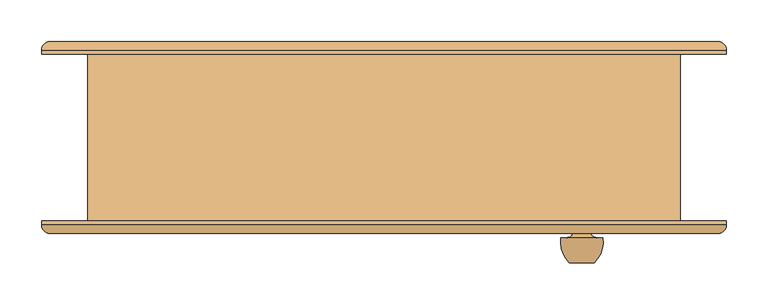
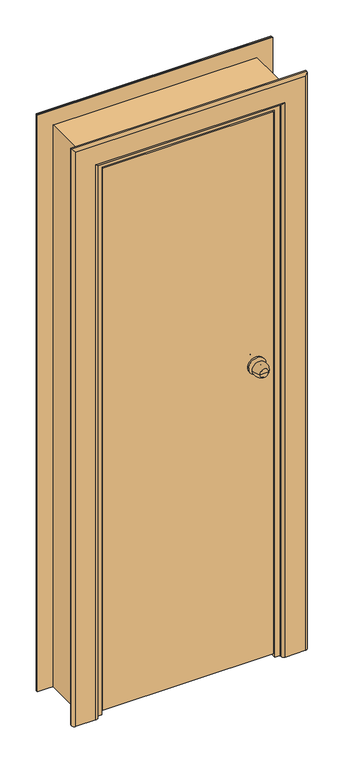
"""IFC4 building model written with IfcOpenShell, lengths in millimetres: door geometry, Внутренняя дверь 1-Навесная - 6629-88 : ДГ 21-7Л  ГОСТ 6629-88."""

from ifc_helpers import new_model, si_unit, point, frame, origin, place, context, project, spatial, polyline, circle_curve, ellipse_curve, trimmed, outline, extrude, faceted_brep, source, transform, mapped, element, save
from ifc_brep_helpers import plane_surface, cylinder_surface, revolved_surface, advanced_brep


def door_2809dd26(model_context):
    return source(origin(), model_context, "Body", "SolidModel", [
        advanced_brep(
        [(252.0, -150.0, 1100.0), (222.0, -150.0, 1100.0), (237.0, -150.0, 1100.0), (262.0, -120.0, 1100.0), (212.0, -120.0, 1100.0), (255.0, -120.0, 1100.0), (219.0, -120.0, 1100.0), (247.0, -112.0, 1100.0), (227.0, -112.0, 1100.0), (247.0, -106.0, 1100.0), (227.0, -106.0, 1100.0), (207.0, -106.0, 1100.0), (267.0, -106.0, 1100.0), (207.0, -100.0, 1100.0), (267.0, -100.0, 1100.0)],
        [
            (0, 1, circle_curve(frame((237.0, -150.0, 1100.0), z_axis=(0.0, -1.0, 0.0), x_axis=(-1.0, 0.0, 0.0)), 15.0)),
            (1, 2),
            (2, 0),
            (1, 0, circle_curve(frame((237.0, -150.0, 1100.0), z_axis=(0.0, -1.0, 0.0), x_axis=(-1.0, 0.0, 0.0)), 15.0)),
            (0, 3, circle_curve(frame((227.3773735, -125.1257912, 1100.0), z_axis=(0.0, 0.0, 1.0), x_axis=(-1.0, 0.0, 0.0)), 35.0)),
            (3, 4, circle_curve(frame((237.0, -120.0, 1100.0), z_axis=(0.0, -1.0, 0.0), x_axis=(-1.0, 0.0, 0.0)), 25.0)),
            (4, 1, circle_curve(frame((246.6226265, -125.1257912, 1100.0), z_axis=(0.0, 0.0, 1.0), x_axis=(1.0, 0.0, 0.0)), 35.0)),
            (4, 3, circle_curve(frame((237.0, -120.0, 1100.0), z_axis=(0.0, -1.0, 0.0), x_axis=(-1.0, 0.0, 0.0)), 25.0)),
            (3, 5),
            (5, 6, circle_curve(frame((237.0, -120.0, 1100.0), z_axis=(0.0, -1.0, 0.0), x_axis=(-1.0, 0.0, 0.0)), 18.0)),
            (6, 4),
            (6, 5, circle_curve(frame((237.0, -120.0, 1100.0), z_axis=(0.0, -1.0, 0.0), x_axis=(-1.0, 0.0, 0.0)), 18.0)),
            (5, 7, circle_curve(frame((255.0, -112.0, 1100.0), z_axis=(0.0, 0.0, -1.0), x_axis=(-1.0, 0.0, 0.0)), 8.0)),
            (7, 8, circle_curve(frame((237.0, -112.0, 1100.0), z_axis=(0.0, -1.0, 0.0), x_axis=(-1.0, 0.0, 0.0)), 10.0)),
            (8, 6, circle_curve(frame((219.0, -112.0, 1100.0), z_axis=(0.0, 0.0, -1.0), x_axis=(1.0, 0.0, 0.0)), 8.0)),
            (8, 7, circle_curve(frame((237.0, -112.0, 1100.0), z_axis=(0.0, -1.0, 0.0), x_axis=(-1.0, 0.0, 0.0)), 10.0)),
            (7, 9),
            (9, 10, circle_curve(frame((237.0, -106.0, 1100.0), z_axis=(0.0, -1.0, 0.0), x_axis=(-1.0, 0.0, 0.0)), 10.0)),
            (10, 8),
            (10, 9, circle_curve(frame((237.0, -106.0, 1100.0), z_axis=(0.0, -1.0, 0.0), x_axis=(-1.0, 0.0, 0.0)), 10.0)),
            (11, 12, circle_curve(frame((237.0, -106.0, 1100.0), z_axis=(0.0, -1.0, 0.0), x_axis=(1.0, 0.0, 0.0)), 30.0)),
            (12, 11, circle_curve(frame((237.0, -106.0, 1100.0), z_axis=(0.0, -1.0, 0.0), x_axis=(1.0, 0.0, 0.0)), 30.0)),
            (13, 14, circle_curve(frame((237.0, -100.0, 1100.0), z_axis=(0.0, 1.0, 0.0), x_axis=(1.0, 0.0, 0.0)), 30.0)),
            (14, 13, circle_curve(frame((237.0, -100.0, 1100.0), z_axis=(0.0, 1.0, 0.0), x_axis=(1.0, 0.0, 0.0)), 30.0)),
            (11, 13),
            (14, 12),
        ],
        [
            plane_surface(frame((237.0, -150.0, 1100.0), z_axis=(0.0, -1.0, 0.0), x_axis=(-1.0, 0.0, 0.0))),
            revolved_surface(trimmed(ellipse_curve(frame((246.6226265, -125.1257912, 1100.0), z_axis=(0.0, 0.0, -1.0), x_axis=(1.0, 0.0, 0.0)), 35.0, 35.0), [point((222.0, -150.0, 1100.0))], [point((212.0, -120.0, 1100.0))], True, "CARTESIAN"), (237.0, -180.0, 1100.0), (0.0, 1.0, 0.0)),
            plane_surface(frame((237.0, -120.0, 1100.0), z_axis=(0.0, 1.0, 0.0), x_axis=(-1.0, 0.0, 0.0))),
            revolved_surface(trimmed(ellipse_curve(frame((219.0, -112.0, 1100.0), z_axis=(0.0, 0.0, 1.0), x_axis=(1.0, 0.0, 0.0)), 8.0, 8.0), [point((219.0, -120.0, 1100.0))], [point((227.0, -112.0, 1100.0))], True, "CARTESIAN"), (237.0, -180.0, 1100.0), (0.0, 1.0, 0.0)),
            cylinder_surface(frame((237.0, -180.0, 1100.0), z_axis=(0.0, 1.0, 0.0), x_axis=(-1.0, 0.0, 0.0)), 10.0),
            plane_surface(frame((267.0, -106.0, 1100.0), z_axis=(0.0, -1.0, 0.0), x_axis=(0.0, 0.0, 1.0))),
            plane_surface(frame((267.0, -100.0, 1100.0), z_axis=(0.0, 1.0, 0.0), x_axis=(0.0, 0.0, -1.0))),
            cylinder_surface(frame((237.0, -100.0, 1100.0), z_axis=(0.0, -1.0, 0.0), x_axis=(1.0, 0.0, 0.0)), 30.0),
        ],
        [
            (0, [[1, 2, 3]]),
            (0, [[-2, 4, -3]]),
            (1, [[-1, 5, 6, 7]]),
            (1, [[-4, -7, 8, -5]]),
            (2, [[-6, 9, 10, 11]]),
            (2, [[-8, -11, 12, -9]]),
            (3, [[-10, 13, 14, 15]]),
            (3, [[-12, -15, 16, -13]]),
            (4, [[-14, 17, 18, 19]]),
            (4, [[-16, -19, 20, -17]]),
            (5, [[21, 22], [-18, -20]]),
            (6, [[23, 24]]),
            (7, [[-21, 25, -24, 26]]),
            (7, [[-22, -26, -23, -25]]),
        ],
    ),
        advanced_brep(
        [(222.0, -13.0, 1100.0), (252.0, -13.0, 1100.0), (237.0, -13.0, 1100.0), (212.0, -43.0, 1100.0), (262.0, -43.0, 1100.0), (219.0, -43.0, 1100.0), (255.0, -43.0, 1100.0), (227.0, -51.0, 1100.0), (247.0, -51.0, 1100.0), (227.0, -57.0, 1100.0), (247.0, -57.0, 1100.0), (267.0, -57.0, 1100.0), (207.0, -57.0, 1100.0), (267.0, -63.0, 1100.0), (207.0, -63.0, 1100.0)],
        [
            (0, 1, circle_curve(frame((237.0, -13.0, 1100.0), z_axis=(0.0, 1.0, 0.0), x_axis=(1.0, 0.0, 0.0)), 15.0)),
            (1, 2),
            (2, 0),
            (1, 0, circle_curve(frame((237.0, -13.0, 1100.0), z_axis=(0.0, 1.0, 0.0), x_axis=(1.0, 0.0, 0.0)), 15.0)),
            (0, 3, circle_curve(frame((246.6226265, -37.8742088, 1100.0), z_axis=(0.0, 0.0, 1.0), x_axis=(1.0, 0.0, 0.0)), 35.0)),
            (3, 4, circle_curve(frame((237.0, -43.0, 1100.0), z_axis=(0.0, 1.0, 0.0), x_axis=(1.0, 0.0, 0.0)), 25.0)),
            (4, 1, circle_curve(frame((227.3773735, -37.8742088, 1100.0), z_axis=(0.0, 0.0, 1.0), x_axis=(-1.0, 0.0, 0.0)), 35.0)),
            (4, 3, circle_curve(frame((237.0, -43.0, 1100.0), z_axis=(0.0, 1.0, 0.0), x_axis=(1.0, 0.0, 0.0)), 25.0)),
            (3, 5),
            (5, 6, circle_curve(frame((237.0, -43.0, 1100.0), z_axis=(0.0, 1.0, 0.0), x_axis=(1.0, 0.0, 0.0)), 18.0)),
            (6, 4),
            (6, 5, circle_curve(frame((237.0, -43.0, 1100.0), z_axis=(0.0, 1.0, 0.0), x_axis=(1.0, 0.0, 0.0)), 18.0)),
            (5, 7, circle_curve(frame((219.0, -51.0, 1100.0), z_axis=(0.0, 0.0, -1.0), x_axis=(1.0, 0.0, 0.0)), 8.0)),
            (7, 8, circle_curve(frame((237.0, -51.0, 1100.0), z_axis=(0.0, 1.0, 0.0), x_axis=(1.0, 0.0, 0.0)), 10.0)),
            (8, 6, circle_curve(frame((255.0, -51.0, 1100.0), z_axis=(0.0, 0.0, -1.0), x_axis=(-1.0, 0.0, 0.0)), 8.0)),
            (8, 7, circle_curve(frame((237.0, -51.0, 1100.0), z_axis=(0.0, 1.0, 0.0), x_axis=(1.0, 0.0, 0.0)), 10.0)),
            (7, 9),
            (9, 10, circle_curve(frame((237.0, -57.0, 1100.0), z_axis=(0.0, 1.0, 0.0), x_axis=(1.0, 0.0, 0.0)), 10.0)),
            (10, 8),
            (10, 9, circle_curve(frame((237.0, -57.0, 1100.0), z_axis=(0.0, 1.0, 0.0), x_axis=(1.0, 0.0, 0.0)), 10.0)),
            (11, 12, circle_curve(frame((237.0, -57.0, 1100.0), z_axis=(0.0, 1.0, 0.0), x_axis=(-1.0, 0.0, 0.0)), 30.0)),
            (12, 11, circle_curve(frame((237.0, -57.0, 1100.0), z_axis=(0.0, 1.0, 0.0), x_axis=(-1.0, 0.0, 0.0)), 30.0)),
            (13, 14, circle_curve(frame((237.0, -63.0, 1100.0), z_axis=(0.0, -1.0, 0.0), x_axis=(-1.0, 0.0, 0.0)), 30.0)),
            (14, 13, circle_curve(frame((237.0, -63.0, 1100.0), z_axis=(0.0, -1.0, 0.0), x_axis=(-1.0, 0.0, 0.0)), 30.0)),
            (11, 13),
            (14, 12),
        ],
        [
            plane_surface(frame((237.0, -13.0, 1100.0), z_axis=(0.0, 1.0, 0.0), x_axis=(1.0, 0.0, 0.0))),
            revolved_surface(trimmed(ellipse_curve(frame((227.3773735, -37.8742088, 1100.0), z_axis=(0.0, 0.0, -1.0), x_axis=(-1.0, 0.0, 0.0)), 35.0, 35.0), [point((252.0, -13.0, 1100.0))], [point((262.0, -43.0, 1100.0))], True, "CARTESIAN"), (237.0, 17.0, 1100.0), (0.0, -1.0, 0.0)),
            plane_surface(frame((237.0, -43.0, 1100.0), z_axis=(0.0, -1.0, 0.0), x_axis=(1.0, 0.0, 0.0))),
            revolved_surface(trimmed(ellipse_curve(frame((255.0, -51.0, 1100.0), z_axis=(0.0, 0.0, 1.0), x_axis=(-1.0, 0.0, 0.0)), 8.0, 8.0), [point((255.0, -43.0, 1100.0))], [point((247.0, -51.0, 1100.0))], True, "CARTESIAN"), (237.0, 17.0, 1100.0), (0.0, -1.0, 0.0)),
            cylinder_surface(frame((237.0, 17.0, 1100.0), z_axis=(0.0, -1.0, 0.0), x_axis=(1.0, 0.0, 0.0)), 10.0),
            plane_surface(frame((207.0, -57.0, 1100.0), z_axis=(0.0, 1.0, 0.0), x_axis=(0.0, 0.0, 1.0))),
            plane_surface(frame((207.0, -63.0, 1100.0), z_axis=(0.0, -1.0, 0.0), x_axis=(0.0, 0.0, -1.0))),
            cylinder_surface(frame((237.0, -63.0, 1100.0), z_axis=(0.0, 1.0, 0.0), x_axis=(-1.0, 0.0, 0.0)), 30.0),
        ],
        [
            (0, [[1, 2, 3]]),
            (0, [[-2, 4, -3]]),
            (1, [[-1, 5, 6, 7]]),
            (1, [[-4, -7, 8, -5]]),
            (2, [[-6, 9, 10, 11]]),
            (2, [[-8, -11, 12, -9]]),
            (3, [[-10, 13, 14, 15]]),
            (3, [[-12, -15, 16, -13]]),
            (4, [[-14, 17, 18, 19]]),
            (4, [[-16, -19, 20, -17]]),
            (5, [[21, 22], [-18, -20]]),
            (6, [[23, 24]]),
            (7, [[-21, 25, -24, 26]]),
            (7, [[-22, -26, -23, -25]]),
        ],
    ),
        extrude(outline(polyline([(0.0, 320.0), (0.0, 335.0), (2050.0, 335.0), (2050.0, -335.0), (0.0, -335.0), (0.0, -320.0), (2035.0, -320.0), (2035.0, 320.0), (0.0, 320.0)])), frame((0.0, -26.0, 0.0), z_axis=(0.0, 1.0, 0.0), x_axis=(0.0, 0.0, 1.0)), (0.0, 0.0, 1.0), 126.0),
        advanced_brep(
        [(-410.0, -100.0, 0.0), (-320.0, -100.0, 0.0), (-320.0, -105.0, 0.0), (-330.0, -115.0, 0.0), (-400.0, -115.0, 0.0), (-410.0, -105.0, 0.0), (-410.0, -100.0, 2125.0), (410.0, -100.0, 2125.0), (410.0, -100.0, 0.0), (320.0, -100.0, 0.0), (320.0, -100.0, 2035.0), (-320.0, -100.0, 2035.0), (-320.0, -105.0, 2035.0), (-330.0, -115.0, 2045.0), (330.0, -115.0, 2045.0), (330.0, -115.0, 0.0), (400.0, -115.0, 0.0), (400.0, -115.0, 2115.0), (-400.0, -115.0, 2115.0), (-410.0, -105.0, 2125.0), (410.0, -105.0, 2125.0), (410.0, -105.0, 0.0), (320.0, -105.0, 0.0), (320.0, -105.0, 2035.0)],
        [
            (0, 1),
            (1, 2),
            (2, 3, circle_curve(frame((-330.0, -105.0, 0.0), z_axis=(0.0, 0.0, -1.0), x_axis=(-1.0, 0.0, 0.0)), 10.0)),
            (3, 4),
            (4, 5, circle_curve(frame((-400.0, -105.0, 0.0), z_axis=(0.0, 0.0, -1.0), x_axis=(-1.0, 0.0, 0.0)), 10.0)),
            (5, 0),
            (0, 6),
            (6, 7),
            (7, 8),
            (8, 9),
            (9, 10),
            (10, 11),
            (11, 1),
            (11, 12),
            (12, 2),
            (12, 13, ellipse_curve(frame((-330.0, -105.0, 2045.0), z_axis=(-0.7071067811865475, 0.0, -0.7071067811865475), x_axis=(0.7071067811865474, 0.0, -0.7071067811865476)), 14.1421356, 10.0)),
            (13, 3),
            (13, 14),
            (14, 15),
            (15, 16),
            (16, 17),
            (17, 18),
            (18, 4),
            (18, 19, ellipse_curve(frame((-400.0, -105.0, 2115.0), z_axis=(-0.7071067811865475, 0.0, -0.7071067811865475), x_axis=(0.7071067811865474, 0.0, -0.7071067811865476)), 14.1421356, 10.0)),
            (19, 5),
            (19, 6),
            (7, 20),
            (20, 21),
            (21, 8),
            (21, 16, circle_curve(frame((400.0, -105.0, 0.0), z_axis=(0.0, 0.0, -1.0), x_axis=(1.0, 0.0, 0.0)), 10.0)),
            (15, 22, circle_curve(frame((330.0, -105.0, 0.0), z_axis=(0.0, 0.0, -1.0), x_axis=(1.0, 0.0, 0.0)), 10.0)),
            (22, 9),
            (23, 10),
            (22, 23),
            (14, 23, ellipse_curve(frame((330.0, -105.0, 2045.0), z_axis=(0.7071067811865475, 0.0, -0.7071067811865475), x_axis=(0.7071067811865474, 0.0, 0.7071067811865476)), 14.1421356, 10.0)),
            (20, 17, ellipse_curve(frame((400.0, -105.0, 2115.0), z_axis=(0.7071067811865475, 0.0, -0.7071067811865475), x_axis=(0.7071067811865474, 0.0, 0.7071067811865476)), 14.1421356, 10.0)),
            (23, 12),
            (20, 19),
        ],
        [
            plane_surface(frame((-355.0, -100.0, 0.0), z_axis=(0.0, 0.0, -1.0), x_axis=(0.0, 1.0, 0.0))),
            plane_surface(frame((-410.0, -100.0, 0.0), z_axis=(0.0, 1.0, 0.0), x_axis=(0.0, 0.0, 1.0))),
            plane_surface(frame((-320.0, -100.0, 0.0), z_axis=(1.0, 0.0, 0.0), x_axis=(0.0, 0.0, 1.0))),
            cylinder_surface(frame((-330.0, -105.0, 0.0), z_axis=(0.0, 0.0, -1.0), x_axis=(-1.0, 0.0, 0.0)), 10.0),
            plane_surface(frame((-330.0, -115.0, 0.0), z_axis=(0.0, -1.0, 0.0), x_axis=(0.0, 0.0, 1.0))),
            cylinder_surface(frame((-400.0, -105.0, 0.0), z_axis=(0.0, 0.0, -1.0), x_axis=(-1.0, 0.0, 0.0)), 10.0),
            plane_surface(frame((-410.0, -105.0, 0.0), z_axis=(-1.0, 0.0, 0.0), x_axis=(0.0, 0.0, 1.0))),
            plane_surface(frame((410.0, -105.0, 2125.0), z_axis=(1.0, 0.0, 0.0), x_axis=(0.0, 0.0, -1.0))),
            plane_surface(frame((355.0, -100.0, 0.0), z_axis=(0.0, 0.0, -1.0), x_axis=(0.0, 1.0, 0.0))),
            plane_surface(frame((320.0, -100.0, 2035.0), z_axis=(-1.0, 0.0, 0.0), x_axis=(0.0, 0.0, -1.0))),
            cylinder_surface(frame((330.0, -105.0, 2070.0), z_axis=(0.0, 0.0, 1.0), x_axis=(1.0, 0.0, 0.0)), 10.0),
            cylinder_surface(frame((400.0, -105.0, 2070.0), z_axis=(0.0, 0.0, 1.0), x_axis=(1.0, 0.0, 0.0)), 10.0),
            plane_surface(frame((-320.0, -100.0, 2035.0), z_axis=(0.0, 0.0, -1.0), x_axis=(1.0, 0.0, 0.0))),
            cylinder_surface(frame((-355.0, -105.0, 2045.0), z_axis=(-1.0, 0.0, 0.0), x_axis=(0.0, 0.0, 1.0)), 10.0),
            cylinder_surface(frame((-355.0, -105.0, 2115.0), z_axis=(-1.0, 0.0, 0.0), x_axis=(0.0, 0.0, 1.0)), 10.0),
            plane_surface(frame((-410.0, -105.0, 2125.0), z_axis=(0.0, 0.0, 1.0), x_axis=(1.0, 0.0, 0.0))),
        ],
        [
            (0, [[1, 2, 3, 4, 5, 6]]),
            (1, [[-1, 7, 8, 9, 10, 11, 12, 13]]),
            (2, [[-2, -13, 14, 15]]),
            (3, [[-3, -15, 16, 17]]),
            (4, [[-4, -17, 18, 19, 20, 21, 22, 23]]),
            (5, [[-5, -23, 24, 25]]),
            (6, [[-6, -25, 26, -7]]),
            (7, [[27, 28, 29, -9]]),
            (8, [[-29, 30, -20, 31, 32, -10]]),
            (9, [[33, -11, -32, 34]]),
            (10, [[35, -34, -31, -19]]),
            (11, [[36, -21, -30, -28]]),
            (12, [[-14, -12, -33, 37]]),
            (13, [[-16, -37, -35, -18]]),
            (14, [[-24, -22, -36, 38]]),
            (15, [[-26, -38, -27, -8]]),
        ],
    ),
        advanced_brep(
        [(410.0, 100.0, 0.0), (320.0, 100.0, 0.0), (320.0, 105.0, 0.0), (330.0, 115.0, 0.0), (400.0, 115.0, 0.0), (410.0, 105.0, 0.0), (410.0, 100.0, 2125.0), (-410.0, 100.0, 2125.0), (-410.0, 100.0, 0.0), (-320.0, 100.0, 0.0), (-320.0, 100.0, 2035.0), (320.0, 100.0, 2035.0), (320.0, 105.0, 2035.0), (330.0, 115.0, 2045.0), (-330.0, 115.0, 2045.0), (-330.0, 115.0, 0.0), (-400.0, 115.0, 0.0), (-400.0, 115.0, 2115.0), (400.0, 115.0, 2115.0), (410.0, 105.0, 2125.0), (-410.0, 105.0, 2125.0), (-410.0, 105.0, 0.0), (-320.0, 105.0, 0.0), (-320.0, 105.0, 2035.0)],
        [
            (0, 1),
            (1, 2),
            (2, 3, circle_curve(frame((330.0, 105.0, 0.0), z_axis=(0.0, 0.0, -1.0), x_axis=(1.0, 0.0, 0.0)), 10.0)),
            (3, 4),
            (4, 5, circle_curve(frame((400.0, 105.0, 0.0), z_axis=(0.0, 0.0, -1.0), x_axis=(1.0, 0.0, 0.0)), 10.0)),
            (5, 0),
            (0, 6),
            (6, 7),
            (7, 8),
            (8, 9),
            (9, 10),
            (10, 11),
            (11, 1),
            (11, 12),
            (12, 2),
            (12, 13, ellipse_curve(frame((330.0, 105.0, 2045.0), z_axis=(0.7071067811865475, 0.0, -0.7071067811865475), x_axis=(-0.7071067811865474, 0.0, -0.7071067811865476)), 14.1421356, 10.0)),
            (13, 3),
            (13, 14),
            (14, 15),
            (15, 16),
            (16, 17),
            (17, 18),
            (18, 4),
            (18, 19, ellipse_curve(frame((400.0, 105.0, 2115.0), z_axis=(0.7071067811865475, 0.0, -0.7071067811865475), x_axis=(-0.7071067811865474, 0.0, -0.7071067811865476)), 14.1421356, 10.0)),
            (19, 5),
            (19, 6),
            (7, 20),
            (20, 21),
            (21, 8),
            (21, 16, circle_curve(frame((-400.0, 105.0, 0.0), z_axis=(0.0, 0.0, -1.0), x_axis=(-1.0, 0.0, 0.0)), 10.0)),
            (15, 22, circle_curve(frame((-330.0, 105.0, 0.0), z_axis=(0.0, 0.0, -1.0), x_axis=(-1.0, 0.0, 0.0)), 10.0)),
            (22, 9),
            (23, 10),
            (22, 23),
            (14, 23, ellipse_curve(frame((-330.0, 105.0, 2045.0), z_axis=(-0.7071067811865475, 0.0, -0.7071067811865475), x_axis=(-0.7071067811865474, 0.0, 0.7071067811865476)), 14.1421356, 10.0)),
            (20, 17, ellipse_curve(frame((-400.0, 105.0, 2115.0), z_axis=(-0.7071067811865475, 0.0, -0.7071067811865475), x_axis=(-0.7071067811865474, 0.0, 0.7071067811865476)), 14.1421356, 10.0)),
            (23, 12),
            (20, 19),
        ],
        [
            plane_surface(frame((355.0, 100.0, 0.0), z_axis=(0.0, 0.0, -1.0), x_axis=(0.0, -1.0, 0.0))),
            plane_surface(frame((410.0, 100.0, 0.0), z_axis=(0.0, -1.0, 0.0), x_axis=(0.0, 0.0, 1.0))),
            plane_surface(frame((320.0, 100.0, 0.0), z_axis=(-1.0, 0.0, 0.0), x_axis=(0.0, 0.0, 1.0))),
            cylinder_surface(frame((330.0, 105.0, 0.0), z_axis=(0.0, 0.0, -1.0), x_axis=(1.0, 0.0, 0.0)), 10.0),
            plane_surface(frame((330.0, 115.0, 0.0), z_axis=(0.0, 1.0, 0.0), x_axis=(0.0, 0.0, 1.0))),
            cylinder_surface(frame((400.0, 105.0, 0.0), z_axis=(0.0, 0.0, -1.0), x_axis=(1.0, 0.0, 0.0)), 10.0),
            plane_surface(frame((410.0, 105.0, 0.0), z_axis=(1.0, 0.0, 0.0), x_axis=(0.0, 0.0, 1.0))),
            plane_surface(frame((-410.0, 105.0, 2125.0), z_axis=(-1.0, 0.0, 0.0), x_axis=(0.0, 0.0, -1.0))),
            plane_surface(frame((-355.0, 100.0, 0.0), z_axis=(0.0, 0.0, -1.0), x_axis=(0.0, -1.0, 0.0))),
            plane_surface(frame((-320.0, 100.0, 2035.0), z_axis=(1.0, 0.0, 0.0), x_axis=(0.0, 0.0, -1.0))),
            cylinder_surface(frame((-330.0, 105.0, 2070.0), z_axis=(0.0, 0.0, 1.0), x_axis=(-1.0, 0.0, 0.0)), 10.0),
            cylinder_surface(frame((-400.0, 105.0, 2070.0), z_axis=(0.0, 0.0, 1.0), x_axis=(-1.0, 0.0, 0.0)), 10.0),
            plane_surface(frame((320.0, 100.0, 2035.0), z_axis=(0.0, 0.0, -1.0), x_axis=(-1.0, 0.0, 0.0))),
            cylinder_surface(frame((355.0, 105.0, 2045.0), z_axis=(1.0, 0.0, 0.0), x_axis=(0.0, 0.0, 1.0)), 10.0),
            cylinder_surface(frame((355.0, 105.0, 2115.0), z_axis=(1.0, 0.0, 0.0), x_axis=(0.0, 0.0, 1.0)), 10.0),
            plane_surface(frame((410.0, 105.0, 2125.0), z_axis=(0.0, 0.0, 1.0), x_axis=(-1.0, 0.0, 0.0))),
        ],
        [
            (0, [[1, 2, 3, 4, 5, 6]]),
            (1, [[-1, 7, 8, 9, 10, 11, 12, 13]]),
            (2, [[-2, -13, 14, 15]]),
            (3, [[-3, -15, 16, 17]]),
            (4, [[-4, -17, 18, 19, 20, 21, 22, 23]]),
            (5, [[-5, -23, 24, 25]]),
            (6, [[-6, -25, 26, -7]]),
            (7, [[27, 28, 29, -9]]),
            (8, [[-29, 30, -20, 31, 32, -10]]),
            (9, [[33, -11, -32, 34]]),
            (10, [[35, -34, -31, -19]]),
            (11, [[36, -21, -30, -28]]),
            (12, [[-14, -12, -33, 37]]),
            (13, [[-16, -37, -35, -18]]),
            (14, [[-24, -22, -36, 38]]),
            (15, [[-26, -38, -27, -8]]),
        ],
    ),
        faceted_brep([(290.0, -26.0, 0.0), (335.0, -26.0, 0.0), (335.0, -100.0, 0.0), (302.0, -100.0, 0.0), (302.0, -58.0, 0.0), (290.0, -58.0, 0.0), (290.0, -26.0, 2005.0), (-290.0, -26.0, 2005.0), (-290.0, -26.0, 0.0), (-335.0, -26.0, 0.0), (-335.0, -26.0, 2050.0), (335.0, -26.0, 2050.0), (335.0, -100.0, 2050.0), (-335.0, -100.0, 2050.0), (-335.0, -100.0, 0.0), (-302.0, -100.0, 0.0), (-302.0, -100.0, 2017.0), (302.0, -100.0, 2017.0), (302.0, -58.0, 2017.0), (-302.0, -58.0, 2017.0), (-302.0, -58.0, 0.0), (-290.0, -58.0, 0.0), (-290.0, -58.0, 2005.0), (290.0, -58.0, 2005.0)], [[[0, 1, 2, 3, 4, 5]], [[1, 0, 6, 7, 8, 9, 10, 11]], [[2, 1, 11, 12]], [[3, 2, 12, 13, 14, 15, 16, 17]], [[4, 3, 17, 18]], [[5, 4, 18, 19, 20, 21, 22, 23]], [[0, 5, 23, 6]], [[7, 22, 21, 8]], [[8, 21, 20, 15, 14, 9]], [[13, 10, 9, 14]], [[19, 16, 15, 20]], [[12, 11, 10, 13]], [[18, 17, 16, 19]], [[6, 23, 22, 7]]]),
        extrude(outline(polyline([(0.0, 335.0), (0.0, 355.0), (2070.0, 355.0), (2070.0, -355.0), (0.0, -355.0), (0.0, -335.0), (2050.0, -335.0), (2050.0, 335.0), (0.0, 335.0)])), frame((0.0, -100.0, 0.0), z_axis=(0.0, 1.0, 0.0), x_axis=(0.0, 0.0, 1.0)), (0.0, 0.0, 1.0), 200.0),
        extrude(outline(polyline([(297.0, -63.0), (297.0, -100.0), (-297.0, -100.0), (-297.0, -63.0), (297.0, -63.0)])), frame((0.0, 0.0, 15.0), z_axis=(0.0, 0.0, 1.0), x_axis=(1.0, 0.0, 0.0)), (0.0, 0.0, 1.0), 1997.0),
    ])


if __name__ == "__main__":
    model = new_model("IFC4")
    model_context = context("Model", 3, world=origin())
    ifc_project = project(units=[si_unit("LENGTHUNIT", "METRE", prefix="MILLI")], contexts=[model_context])
    site = spatial("IfcSite", under=ifc_project)
    building = spatial("IfcBuilding", under=site)
    placement = place(None, origin())
    door_shape = door_2809dd26(model_context)
    element("IfcDoor", 1, ObjectType="Внутренняя дверь 1-Навесная - 6629-88 : ДГ 21-7Л  ГОСТ 6629-88", at=placement, inside=building, context=model_context, shape_type="MappedRepresentation", body=[
        mapped(door_shape, transform((0.0, 0.0, 0.0), x_axis=(1.0, 0.0, 0.0), y_axis=(0.0, 1.0, 0.0), z_axis=(0.0, 0.0, 1.0))),
    ])
    save(model, "model.ifc")
